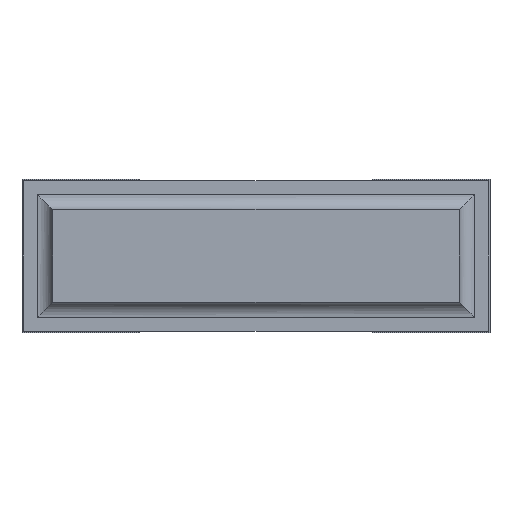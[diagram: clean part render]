
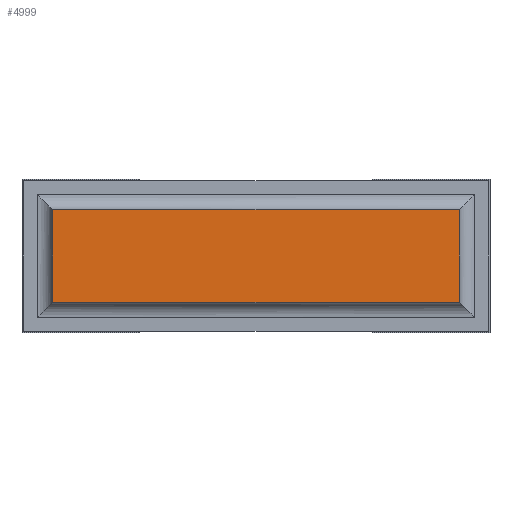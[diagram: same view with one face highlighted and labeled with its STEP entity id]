
A CAD part, front view. The second image highlights one B-rep face of the part: STEP entity #4999.
In plain terms, the highlighted planar face has unit normal (0, -1, 0).
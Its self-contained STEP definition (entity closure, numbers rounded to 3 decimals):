
#209=FACE_OUTER_BOUND('',#521,.T.);
#521=EDGE_LOOP('',(#3383,#3384,#3385,#3386));
#850=LINE('',#7162,#1502);
#856=LINE('',#7178,#1508);
#859=LINE('',#7187,#1511);
#861=LINE('',#7191,#1513);
#1502=VECTOR('',#5752,10.);
#1508=VECTOR('',#5766,10.);
#1511=VECTOR('',#5781,10.);
#1513=VECTOR('',#5787,10.);
#2151=VERTEX_POINT('',#7159);
#2152=VERTEX_POINT('',#7161);
#2156=VERTEX_POINT('',#7172);
#2158=VERTEX_POINT('',#7176);
#2614=EDGE_CURVE('',#2152,#2151,#850,.T.);
#2622=EDGE_CURVE('',#2156,#2158,#856,.T.);
#2627=EDGE_CURVE('',#2151,#2156,#859,.T.);
#2629=EDGE_CURVE('',#2158,#2152,#861,.T.);
#3383=ORIENTED_EDGE('',*,*,#2614,.T.);
#3384=ORIENTED_EDGE('',*,*,#2627,.T.);
#3385=ORIENTED_EDGE('',*,*,#2622,.T.);
#3386=ORIENTED_EDGE('',*,*,#2629,.T.);
#4745=PLANE('',#5353);
#4999=ADVANCED_FACE('',(#209),#4745,.T.);
#5353=AXIS2_PLACEMENT_3D('',#7194,#5791,#5792);
#5752=DIRECTION('',(0.,0.,-1.));
#5766=DIRECTION('',(0.,0.,1.));
#5781=DIRECTION('',(1.,0.,0.));
#5787=DIRECTION('',(-1.,0.,0.));
#5791=DIRECTION('center_axis',(0.,-1.,0.));
#5792=DIRECTION('ref_axis',(0.,0.,-1.));
#7159=CARTESIAN_POINT('',(0.1,0.,0.1));
#7161=CARTESIAN_POINT('',(0.1,0.,0.4));
#7162=CARTESIAN_POINT('',(0.1,0.,0.4));
#7172=CARTESIAN_POINT('',(1.42,0.,0.1));
#7176=CARTESIAN_POINT('',(1.42,0.,0.4));
#7178=CARTESIAN_POINT('',(1.42,0.,0.1));
#7187=CARTESIAN_POINT('',(0.1,0.,0.1));
#7191=CARTESIAN_POINT('',(1.42,0.,0.4));
#7194=CARTESIAN_POINT('Origin',(0.1,0.,0.25));
